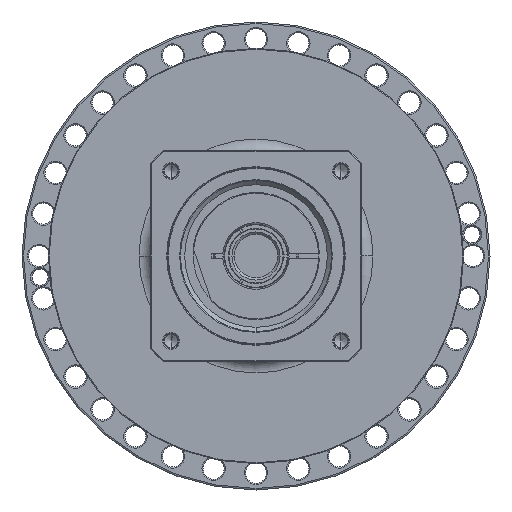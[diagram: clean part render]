
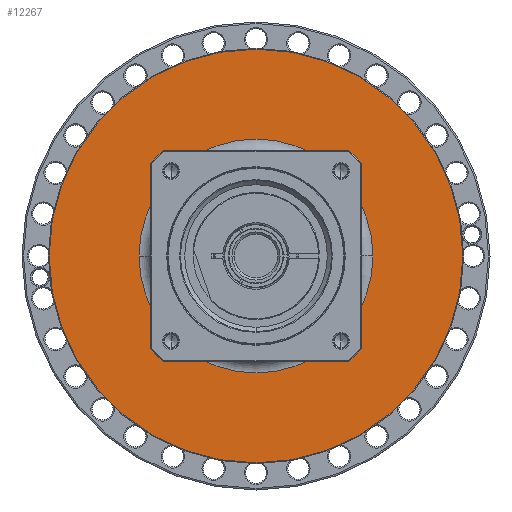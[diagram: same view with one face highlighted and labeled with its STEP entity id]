
A CAD part, left-side view. The second image highlights one B-rep face of the part: STEP entity #12267.
In plain terms, the highlighted planar face has unit normal (-1, 0, 0) as drawn and (1, 0, 0) by its records, which use the part's own axes.
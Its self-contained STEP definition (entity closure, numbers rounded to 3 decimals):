
#11746=CARTESIAN_POINT('',(-10.,0.,0.));
#11747=DIRECTION('',(-1.,0.,0.));
#11748=DIRECTION('',(0.,-1.,0.));
#11749=AXIS2_PLACEMENT_3D('',#11746,#11747,#11748);
#11751=CARTESIAN_POINT('',(-10.,0.,0.));
#11752=DIRECTION('',(-1.,0.,0.));
#11753=DIRECTION('',(0.,1.,0.));
#11754=AXIS2_PLACEMENT_3D('',#11751,#11752,#11753);
#11756=CARTESIAN_POINT('',(-10.,0.,0.));
#11757=DIRECTION('',(-1.,0.,0.));
#11758=DIRECTION('',(0.,-1.,0.));
#11759=AXIS2_PLACEMENT_3D('',#11756,#11757,#11758);
#11761=CARTESIAN_POINT('',(-10.,0.,0.));
#11762=DIRECTION('',(-1.,0.,0.));
#11763=DIRECTION('',(0.,1.,0.));
#11764=AXIS2_PLACEMENT_3D('',#11761,#11762,#11763);
#11830=CARTESIAN_POINT('',(-10.,-133.5,0.));
#11831=CARTESIAN_POINT('',(-10.,133.5,0.));
#11832=VERTEX_POINT('',#11830);
#11833=VERTEX_POINT('',#11831);
#11854=CARTESIAN_POINT('',(-10.,-75.5,0.));
#11855=CARTESIAN_POINT('',(-10.,75.5,0.));
#11856=VERTEX_POINT('',#11854);
#11857=VERTEX_POINT('',#11855);
#12252=CARTESIAN_POINT('',(-10.,0.,0.));
#12253=DIRECTION('',(1.,0.,0.));
#12254=DIRECTION('',(0.,-1.,0.));
#12255=AXIS2_PLACEMENT_3D('',#12252,#12253,#12254);
#12256=PLANE('',#12255);
#12257=ORIENTED_EDGE('',*,*,#12193,.T.);
#12258=ORIENTED_EDGE('',*,*,#12208,.T.);
#12259=EDGE_LOOP('',(#12257,#12258));
#12260=FACE_OUTER_BOUND('',#12259,.F.);
#12262=ORIENTED_EDGE('',*,*,#12261,.F.);
#12264=ORIENTED_EDGE('',*,*,#12263,.F.);
#12265=EDGE_LOOP('',(#12262,#12264));
#12266=FACE_BOUND('',#12265,.F.);
#12267=ADVANCED_FACE('',(#12260,#12266),#12256,.T.);
#11750=CIRCLE('',#11749,75.5);
#11755=CIRCLE('',#11754,75.5);
#11760=CIRCLE('',#11759,133.5);
#11765=CIRCLE('',#11764,133.5);
#12193=EDGE_CURVE('',#11832,#11833,#11760,.T.);
#12208=EDGE_CURVE('',#11833,#11832,#11765,.T.);
#12261=EDGE_CURVE('',#11856,#11857,#11750,.T.);
#12263=EDGE_CURVE('',#11857,#11856,#11755,.T.);
